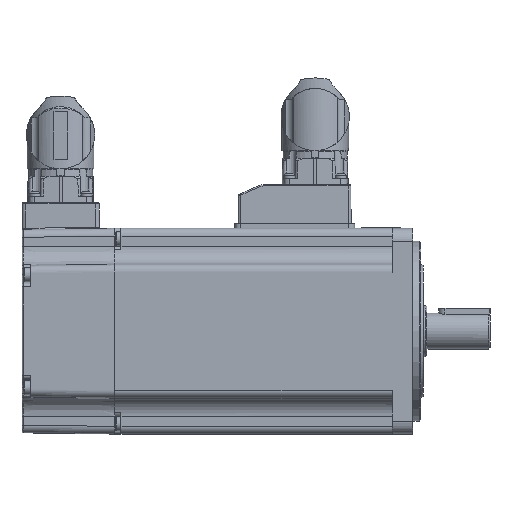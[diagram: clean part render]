
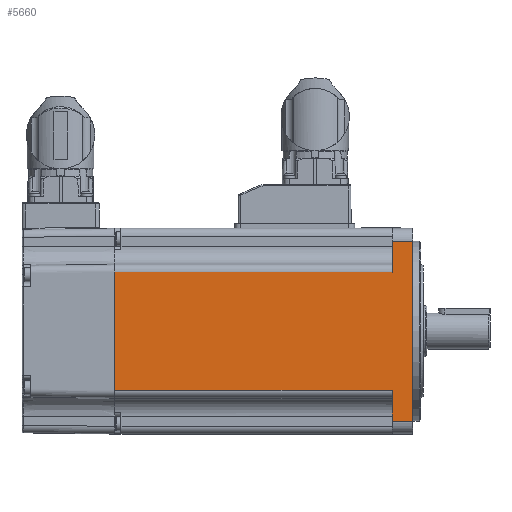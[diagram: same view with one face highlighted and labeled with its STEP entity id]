
A CAD part, left-side view. The second image highlights one B-rep face of the part: STEP entity #5660.
In plain terms, the highlighted planar face has unit normal (-1, 0, 0).
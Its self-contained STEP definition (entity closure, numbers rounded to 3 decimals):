
#5660 = ADVANCED_FACE( '', ( #12852 ), #12853, .T. );
#12852 = FACE_OUTER_BOUND( '', #27119, .T. );
#12853 = PLANE( '', #27120 );
#27119 = EDGE_LOOP( '', ( #46925, #46926, #46927, #46928, #46929, #46930, #46931, #46932 ) );
#27120 = AXIS2_PLACEMENT_3D( '', #46933, #46934, #46935 );
#46925 = ORIENTED_EDGE( '', *, *, #62558, .F. );
#46926 = ORIENTED_EDGE( '', *, *, #63104, .T. );
#46927 = ORIENTED_EDGE( '', *, *, #63105, .F. );
#46928 = ORIENTED_EDGE( '', *, *, #63106, .T. );
#46929 = ORIENTED_EDGE( '', *, *, #58860, .F. );
#46930 = ORIENTED_EDGE( '', *, *, #60053, .T. );
#46931 = ORIENTED_EDGE( '', *, *, #63107, .F. );
#46932 = ORIENTED_EDGE( '', *, *, #60729, .T. );
#46933 = CARTESIAN_POINT( '', ( -40., 78.5, -40. ) );
#46934 = DIRECTION( '', ( -1., 0., 0. ) );
#46935 = DIRECTION( '', ( 0., 0., 1. ) );
#58860 = EDGE_CURVE( '', #69845, #69847, #69848, .T. );
#60053 = EDGE_CURVE( '', #69845, #71772, #71774, .F. );
#60729 = EDGE_CURVE( '', #72824, #72822, #72825, .F. );
#62558 = EDGE_CURVE( '', #75446, #72822, #75448, .T. );
#63104 = EDGE_CURVE( '', #75446, #76174, #76175, .T. );
#63105 = EDGE_CURVE( '', #76176, #76174, #76177, .T. );
#63106 = EDGE_CURVE( '', #76176, #69847, #76178, .T. );
#63107 = EDGE_CURVE( '', #72824, #71772, #76179, .T. );
#69845 = VERTEX_POINT( '', #88822 );
#69847 = VERTEX_POINT( '', #88824 );
#69848 = LINE( '', #88825, #88826 );
#71772 = VERTEX_POINT( '', #93033 );
#71774 = LINE( '', #93035, #93036 );
#72822 = VERTEX_POINT( '', #95336 );
#72824 = VERTEX_POINT( '', #95338 );
#72825 = LINE( '', #95339, #95340 );
#75446 = VERTEX_POINT( '', #100888 );
#75448 = LINE( '', #100891, #100892 );
#76174 = VERTEX_POINT( '', #102431 );
#76175 = LINE( '', #102432, #102433 );
#76176 = VERTEX_POINT( '', #102434 );
#76177 = LINE( '', #102435, #102436 );
#76178 = LINE( '', #102437, #102438 );
#76179 = LINE( '', #102439, #102440 );
#88822 = CARTESIAN_POINT( '', ( -40., 17., 35. ) );
#88824 = CARTESIAN_POINT( '', ( -40., 17., -35. ) );
#88825 = CARTESIAN_POINT( '', ( -40., 17., 40. ) );
#88826 = VECTOR( '', #111482, 1000. );
#93033 = CARTESIAN_POINT( '', ( -40., 25., 35. ) );
#93035 = CARTESIAN_POINT( '', ( -40., 214.036, 35. ) );
#93036 = VECTOR( '', #112969, 1000. );
#95336 = CARTESIAN_POINT( '', ( -40., 133., 23. ) );
#95338 = CARTESIAN_POINT( '', ( -40., 25., 23. ) );
#95339 = CARTESIAN_POINT( '', ( -40., 138.5, 23. ) );
#95340 = VECTOR( '', #113763, 1000. );
#100888 = CARTESIAN_POINT( '', ( -40., 133., -23. ) );
#100891 = CARTESIAN_POINT( '', ( -40., 133., -40. ) );
#100892 = VECTOR( '', #115835, 1000. );
#102431 = CARTESIAN_POINT( '', ( -40., 25., -23. ) );
#102432 = CARTESIAN_POINT( '', ( -40., 78.5, -23. ) );
#102433 = VECTOR( '', #116418, 1000. );
#102434 = CARTESIAN_POINT( '', ( -40., 25., -35. ) );
#102435 = CARTESIAN_POINT( '', ( -40., 25., 40. ) );
#102436 = VECTOR( '', #116419, 1000. );
#102437 = CARTESIAN_POINT( '', ( -40., 214.036, -35. ) );
#102438 = VECTOR( '', #116420, 1000. );
#102439 = CARTESIAN_POINT( '', ( -40., 25., 40. ) );
#102440 = VECTOR( '', #116421, 1000. );
#111482 = DIRECTION( '', ( 0., 0., -1. ) );
#112969 = DIRECTION( '', ( 0., -1., 0. ) );
#113763 = DIRECTION( '', ( 0., -1., 0. ) );
#115835 = DIRECTION( '', ( 0., 0., 1. ) );
#116418 = DIRECTION( '', ( 0., -1., 0. ) );
#116419 = DIRECTION( '', ( 0., 0., 1. ) );
#116420 = DIRECTION( '', ( 0., -1., 0. ) );
#116421 = DIRECTION( '', ( 0., 0., 1. ) );
